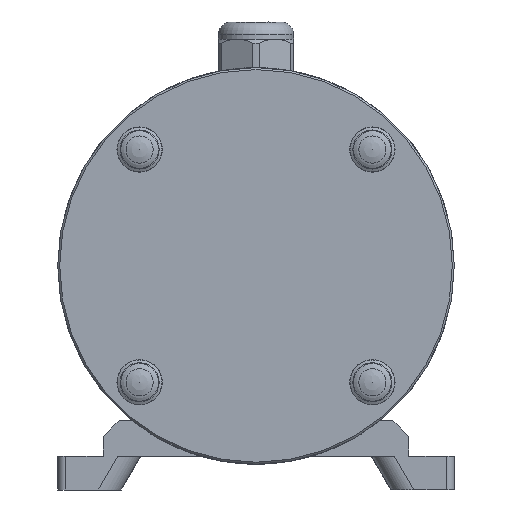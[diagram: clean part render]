
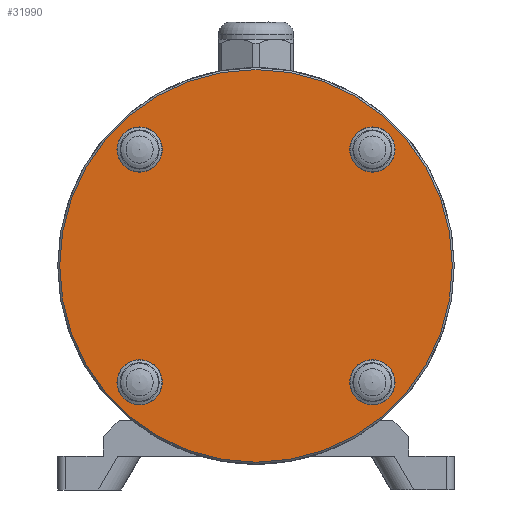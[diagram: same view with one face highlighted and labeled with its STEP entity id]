
A CAD part, left-side view. The second image highlights one B-rep face of the part: STEP entity #31990.
In plain terms, the highlighted planar face has unit normal (-1, 0, 0).
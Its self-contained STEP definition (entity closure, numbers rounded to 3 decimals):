
#7261=PLANE('',#35020);
#8569=FACE_BOUND('',#12514,.T.);
#8570=FACE_BOUND('',#12515,.T.);
#8571=FACE_BOUND('',#12516,.T.);
#8572=FACE_BOUND('',#12517,.T.);
#10103=FACE_OUTER_BOUND('',#12513,.T.);
#12513=EDGE_LOOP('',(#28176));
#12514=EDGE_LOOP('',(#28177));
#12515=EDGE_LOOP('',(#28178));
#12516=EDGE_LOOP('',(#28179));
#12517=EDGE_LOOP('',(#28180));
#14071=CIRCLE('',#34906,4.75);
#14074=CIRCLE('',#34912,4.75);
#14077=CIRCLE('',#34918,4.75);
#14080=CIRCLE('',#34924,4.75);
#14108=CIRCLE('',#35019,49.5);
#16759=VERTEX_POINT('',#53699);
#16762=VERTEX_POINT('',#53708);
#16765=VERTEX_POINT('',#53717);
#16768=VERTEX_POINT('',#53726);
#16839=VERTEX_POINT('',#54288);
#20623=EDGE_CURVE('',#16759,#16759,#14071,.T.);
#20626=EDGE_CURVE('',#16762,#16762,#14074,.T.);
#20629=EDGE_CURVE('',#16765,#16765,#14077,.T.);
#20632=EDGE_CURVE('',#16768,#16768,#14080,.T.);
#20748=EDGE_CURVE('',#16839,#16839,#14108,.T.);
#28176=ORIENTED_EDGE('',*,*,#20748,.F.);
#28177=ORIENTED_EDGE('',*,*,#20623,.T.);
#28178=ORIENTED_EDGE('',*,*,#20626,.T.);
#28179=ORIENTED_EDGE('',*,*,#20629,.T.);
#28180=ORIENTED_EDGE('',*,*,#20632,.T.);
#31990=ADVANCED_FACE('',(#10103,#8569,#8570,#8571,#8572),#7261,.F.);
#34906=AXIS2_PLACEMENT_3D('',#53700,#42724,#42725);
#34912=AXIS2_PLACEMENT_3D('',#53709,#42736,#42737);
#34918=AXIS2_PLACEMENT_3D('',#53718,#42748,#42749);
#34924=AXIS2_PLACEMENT_3D('',#53727,#42760,#42761);
#35019=AXIS2_PLACEMENT_3D('',#54289,#43010,#43011);
#35020=AXIS2_PLACEMENT_3D('',#54290,#43012,#43013);
#42724=DIRECTION('center_axis',(1.,0.,0.));
#42725=DIRECTION('ref_axis',(0.,0.707,0.707));
#42736=DIRECTION('center_axis',(1.,0.,0.));
#42737=DIRECTION('ref_axis',(0.,0.707,-0.707));
#42748=DIRECTION('center_axis',(1.,0.,0.));
#42749=DIRECTION('ref_axis',(0.,-0.707,-0.707));
#42760=DIRECTION('center_axis',(1.,0.,0.));
#42761=DIRECTION('ref_axis',(0.,-0.707,0.707));
#43010=DIRECTION('center_axis',(1.,0.,0.));
#43011=DIRECTION('ref_axis',(0.,0.,
-1.));
#43012=DIRECTION('center_axis',(1.,0.,0.));
#43013=DIRECTION('ref_axis',(0.,0.,-1.));
#53699=CARTESIAN_POINT('',(-59.,32.704,32.704));
#53700=CARTESIAN_POINT('Origin',(-59.,29.345,29.345));
#53708=CARTESIAN_POINT('',(-59.,32.704,-32.704));
#53709=CARTESIAN_POINT('Origin',(-59.,29.345,-29.345));
#53717=CARTESIAN_POINT('',(-59.,-32.704,-32.704));
#53718=CARTESIAN_POINT('Origin',(-59.,-29.345,-29.345));
#53726=CARTESIAN_POINT('',(-59.,-32.704,32.704));
#53727=CARTESIAN_POINT('Origin',(-59.,-29.345,29.345));
#54288=CARTESIAN_POINT('',(-59.,0.,49.5));
#54289=CARTESIAN_POINT('Origin',(-59.,0.,0.));
#54290=CARTESIAN_POINT('Origin',(-59.,0.,0.));
